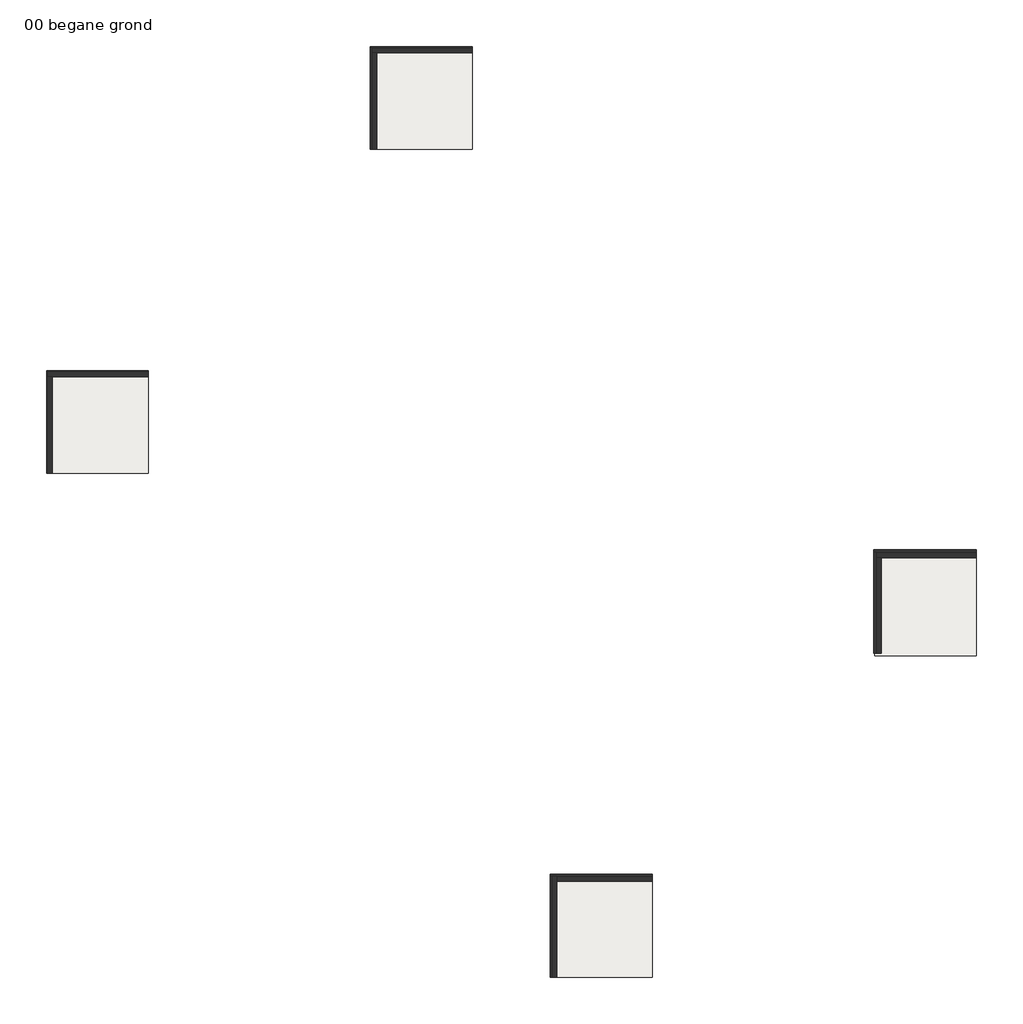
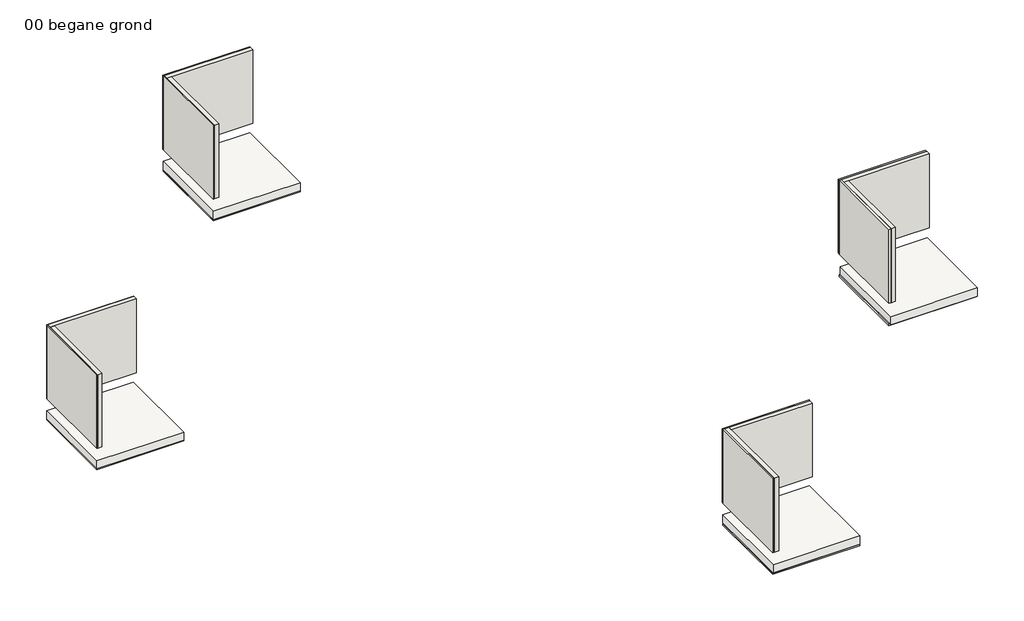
# One storey: 16 walls, 8 slabs.
"""IFC4 building model written with IfcOpenShell, lengths in millimetres."""

from ifc_helpers import new_model, si_unit, frame, origin, origin_with_axes, place, context, project, spatial, polyline, outline, extrude, faceted_brep, element, save

model = new_model("IFC4")

# Units and contexts
model_context = context("Model", 3, world=origin())
ifc_project = project(units=[si_unit("LENGTHUNIT", "METRE", prefix="MILLI")], contexts=[model_context])

# Site, building, storey
site = spatial("IfcSite", under=ifc_project)
building = spatial("IfcBuilding", under=site)
storey = spatial("IfcBuildingStorey", under=building, Name="00 begane grond", Elevation=0.0)

# Slabs
placement = place(None, origin())
element("IfcSlab", 1, ObjectType="NLRS_23_FL_Heraklith - Basis 15x2000x600mm", at=placement, inside=storey, context=model_context, shape_type="SweptSolid", body=[
    extrude(outline(polyline([(0.0, 2000.0), (2000.0, 2000.0), (2000.0, 0.0), (0.0, 0.0), (0.0, 2000.0)])), frame((0.0, 0.0, -515.0), z_axis=(0.0, 0.0, 1.0), x_axis=(1.0, 0.0, 0.0)), (0.0, 0.0, 1.0), 15.0),
])
element("IfcSlab", 2, ObjectType="NLRS_23_FL_Heraklith - Basis 25x2000x600mm", at=placement, inside=storey, context=model_context, shape_type="SweptSolid", body=[
    extrude(outline(polyline([(6358.9610307, 8358.9610307), (8363.9610307, 8358.9610307), (8363.9610307, 6363.9610307), (6358.9610307, 6363.9610307), (6358.9610307, 8358.9610307)])), frame((0.0, 0.0, -525.0), z_axis=(0.0, 0.0, 1.0), x_axis=(1.0, 0.0, 0.0)), (0.0, 0.0, 1.0), 25.0),
])
element("IfcSlab", 3, ObjectType="NLRS_23_FL_Heraklith - Basis 35x2000x600mm", at=placement, inside=storey, context=model_context, shape_type="SweptSolid", body=[
    extrude(outline(polyline([(9889.4949366, -7909.4949366), (11899.4949366, -7909.4949366), (11899.4949366, -9899.4949366), (9889.4949366, -9899.4949366), (9889.4949366, -7909.4949366)])), frame((0.0, 0.0, -535.0), z_axis=(0.0, 0.0, 1.0), x_axis=(1.0, 0.0, 0.0)), (0.0, 0.0, 1.0), 35.0),
])
element("IfcSlab", 4, ObjectType="NLRS_23_FL_Heraklith - Basis 50x2000x600mm", at=placement, inside=storey, context=model_context, shape_type="SweptSolid", body=[
    extrude(outline(polyline([(16245.9559673, -1553.0339059), (18263.4559673, -1553.0339059), (18263.4559673, -3535.5339059), (16245.9559673, -3535.5339059), (16245.9559673, -1553.0339059)])), frame((0.0, 0.0, -550.0), z_axis=(0.0, 0.0, 1.0), x_axis=(1.0, 0.0, 0.0)), (0.0, 0.0, 1.0), 50.0),
])
element("IfcSlab", 5, ObjectType="Generic 200mm", at=placement, inside=storey, context=model_context, shape_type="SweptSolid", body=[
    extrude(outline(polyline([(2000.0, 2015.0), (2000.0, 0.0), (0.0, 0.0), (0.0, 2015.0), (2000.0, 2015.0)])), frame((0.0, 0.0, -500.0), z_axis=(0.0, 0.0, 1.0), x_axis=(1.0, 0.0, 0.0)), (0.0, 0.0, 1.0), 200.0),
])
element("IfcSlab", 6, ObjectType="Generic 200mm", at=placement, inside=storey, context=model_context, shape_type="SweptSolid", body=[
    extrude(outline(polyline([(8363.9610307, 8378.9610307), (8363.9610307, 6363.9610307), (6363.9610307, 6363.9610307), (6363.9610307, 8378.9610307), (8363.9610307, 8378.9610307)])), frame((0.0, 0.0, -500.0), z_axis=(0.0, 0.0, 1.0), x_axis=(1.0, 0.0, 0.0)), (0.0, 0.0, 1.0), 200.0),
])
element("IfcSlab", 7, ObjectType="Generic 200mm", at=placement, inside=storey, context=model_context, shape_type="SweptSolid", body=[
    extrude(outline(polyline([(18263.4559673, -1570.5339059), (18263.4559673, -3585.5339059), (16263.4559673, -3585.5339059), (16263.4559673, -1570.5339059), (18263.4559673, -1570.5339059)])), frame((0.0, 0.0, -500.0), z_axis=(0.0, 0.0, 1.0), x_axis=(1.0, 0.0, 0.0)), (0.0, 0.0, 1.0), 200.0),
])
element("IfcSlab", 8, ObjectType="Generic 200mm", at=placement, inside=storey, context=model_context, shape_type="SweptSolid", body=[
    extrude(outline(polyline([(11899.4949366, -7884.4949366), (11899.4949366, -9899.4949366), (9899.4949366, -9899.4949366), (9899.4949366, -7884.4949366), (11899.4949366, -7884.4949366)])), frame((0.0, 0.0, -500.0), z_axis=(0.0, 0.0, 1.0), x_axis=(1.0, 0.0, 0.0)), (0.0, 0.0, 1.0), 200.0),
])

# Walls
element("IfcWall", 9, ObjectType="NLRS_42_WA_Heraklith - Basis 15x2000x600mm", at=placement, inside=storey, context=model_context, shape_type="SweptSolid", body=[
    extrude(outline(polyline([(15.0, 2000.0), (15.0, 0.0), (0.0, 0.0), (0.0, 2000.0), (15.0, 2000.0)])), origin_with_axes(), (0.0, 0.0, 1.0), 1800.0),
])
element("IfcWall", 10, ObjectType="NLRS_41_WA_Heraklith - Basis 15x2000x600mm", at=placement, inside=storey, context=model_context, shape_type="SweptSolid", body=[
    extrude(outline(polyline([(0.0, 2015.0), (2000.0, 2015.0), (2000.0, 2000.0), (0.0, 2000.0), (0.0, 2015.0)])), origin_with_axes(), (0.0, 0.0, 1.0), 1800.0),
])
element("IfcWall", 11, ObjectType="NLRS_42_WA_Heraklith - Basis 25x2000x600mm", at=placement, inside=storey, context=model_context, shape_type="SweptSolid", body=[
    extrude(outline(polyline([(6383.9610307, 8358.9610307), (6383.9610307, 6363.9610307), (6358.9610307, 6363.9610307), (6358.9610307, 8358.9610307), (6383.9610307, 8358.9610307)])), origin_with_axes(), (0.0, 0.0, 1.0), 1800.0),
])
element("IfcWall", 12, ObjectType="NLRS_41_WA_Heraklith - Basis 25x2000x600mm", at=placement, inside=storey, context=model_context, shape_type="SweptSolid", body=[
    extrude(outline(polyline([(6358.9610307, 8383.9610307), (8363.9610307, 8383.9610307), (8363.9610307, 8358.9610307), (6358.9610307, 8358.9610307), (6358.9610307, 8383.9610307)])), origin_with_axes(), (0.0, 0.0, 1.0), 1800.0),
])
element("IfcWall", 13, ObjectType="NLRS_42_WA_Heraklith - Basis 35x2000x600mm", at=placement, inside=storey, context=model_context, shape_type="SweptSolid", body=[
    extrude(outline(polyline([(9924.4949366, -7909.4949366), (9924.4949366, -9899.4949366), (9889.4949366, -9899.4949366), (9889.4949366, -7909.4949366), (9924.4949366, -7909.4949366)])), origin_with_axes(), (0.0, 0.0, 1.0), 1800.0),
])
element("IfcWall", 14, ObjectType="NLRS_41_WA_Heraklith - Basis 35x2000x600mm", at=placement, inside=storey, context=model_context, shape_type="SweptSolid", body=[
    extrude(outline(polyline([(9889.4949366, -7874.4949366), (11899.4949366, -7874.4949366), (11899.4949366, -7909.4949366), (9889.4949366, -7909.4949366), (9889.4949366, -7874.4949366)])), origin_with_axes(), (0.0, 0.0, 1.0), 1800.0),
])
element("IfcWall", 15, ObjectType="NLRS_42_WA_Heraklith - Basis 50x2000x600mm", at=placement, inside=storey, context=model_context, shape_type="SweptSolid", body=[
    extrude(outline(polyline([(16295.9559673, -1553.0339059), (16295.9559673, -3535.5339059), (16245.9559673, -3535.5339059), (16245.9559673, -1553.0339059), (16295.9559673, -1553.0339059)])), origin_with_axes(), (0.0, 0.0, 1.0), 1800.0),
])
element("IfcWall", 16, ObjectType="NLRS_41_WA_Heraklith - Basis 50x2000x600mm", at=placement, inside=storey, context=model_context, shape_type="SweptSolid", body=[
    extrude(outline(polyline([(16248.4559673, -1503.0339059), (18263.4559673, -1503.0339059), (18263.4559673, -1553.0339059), (16248.4559673, -1553.0339059), (16248.4559673, -1503.0339059)])), origin_with_axes(), (0.0, 0.0, 1.0), 1800.0),
])
element("IfcWall", 17, ObjectType="Generic_100mm", at=placement, inside=storey, context=model_context, shape_type="SweptSolid", body=[
    extrude(outline(polyline([(115.0, 1900.0), (115.0, 0.0), (15.0, 0.0), (15.0, 1900.0), (115.0, 1900.0)])), origin_with_axes(), (0.0, 0.0, 1.0), 1800.0),
])
element("IfcWall", 18, ObjectType="Generic_100mm", at=placement, inside=storey, context=model_context, shape_type="Brep", body=[
    faceted_brep([(2000.0, 2000.0, 0.0), (15.0, 2000.0, 0.0), (15.0, 2000.0, 1800.0), (2000.0, 2000.0, 1800.0), (2000.0, 1900.0, 0.0), (2000.0, 1900.0, 1800.0), (115.0, 1900.0, 1800.0), (15.0, 1900.0, 1800.0), (15.0, 1900.0, 0.0), (115.0, 1900.0, 0.0)], [[[0, 1, 2, 3]], [[4, 5, 6, 7, 8, 9]], [[1, 0, 4, 9, 8]], [[3, 2, 7, 6, 5]], [[0, 3, 5, 4]], [[2, 1, 8, 7]]]),
])
element("IfcWall", 19, ObjectType="Generic_100mm", at=placement, inside=storey, context=model_context, shape_type="SweptSolid", body=[
    extrude(outline(polyline([(6483.9610307, 8258.9610307), (6483.9610307, 6363.9610307), (6383.9610307, 6363.9610307), (6383.9610307, 8258.9610307), (6483.9610307, 8258.9610307)])), origin_with_axes(), (0.0, 0.0, 1.0), 1800.0),
])
element("IfcWall", 20, ObjectType="Generic_100mm", at=placement, inside=storey, context=model_context, shape_type="Brep", body=[
    faceted_brep([(8363.9610307, 8358.9610307, 0.0), (6383.9610307, 8358.9610307, 0.0), (6383.9610307, 8358.9610307, 1800.0), (8363.9610307, 8358.9610307, 1800.0), (8363.9610307, 8258.9610307, 0.0), (8363.9610307, 8258.9610307, 1800.0), (6483.9610307, 8258.9610307, 1800.0), (6383.9610307, 8258.9610307, 1800.0), (6383.9610307, 8258.9610307, 0.0), (6483.9610307, 8258.9610307, 0.0)], [[[0, 1, 2, 3]], [[4, 5, 6, 7, 8, 9]], [[1, 0, 4, 9, 8]], [[3, 2, 7, 6, 5]], [[0, 3, 5, 4]], [[2, 1, 8, 7]]]),
])
element("IfcWall", 21, ObjectType="Generic_100mm", at=placement, inside=storey, context=model_context, shape_type="SweptSolid", body=[
    extrude(outline(polyline([(16395.9559673, -1653.0339059), (16395.9559673, -3535.5339059), (16295.9559673, -3535.5339059), (16295.9559673, -1653.0339059), (16395.9559673, -1653.0339059)])), origin_with_axes(), (0.0, 0.0, 1.0), 1800.0),
])
element("IfcWall", 22, ObjectType="Generic_100mm", at=placement, inside=storey, context=model_context, shape_type="Brep", body=[
    faceted_brep([(18263.4559673, -1553.0339059, 0.0), (16295.9559673, -1553.0339059, 0.0), (16295.9559673, -1553.0339059, 1800.0), (18263.4559673, -1553.0339059, 1800.0), (18263.4559673, -1653.0339059, 0.0), (18263.4559673, -1653.0339059, 1800.0), (16395.9559673, -1653.0339059, 1800.0), (16295.9559673, -1653.0339059, 1800.0), (16295.9559673, -1653.0339059, 0.0), (16395.9559673, -1653.0339059, 0.0)], [[[0, 1, 2, 3]], [[4, 5, 6, 7, 8, 9]], [[1, 0, 4, 9, 8]], [[3, 2, 7, 6, 5]], [[0, 3, 5, 4]], [[2, 1, 8, 7]]]),
])
element("IfcWall", 23, ObjectType="Generic_100mm", at=placement, inside=storey, context=model_context, shape_type="Brep", body=[
    faceted_brep([(10024.4949366, -9899.4949366, 0.0), (10024.4949366, -8009.4949366, 0.0), (10024.4949366, -7909.4949366, 0.0), (10024.4949366, -7909.4949366, 1800.0), (10024.4949366, -8009.4949366, 1800.0), (10024.4949366, -9899.4949366, 1800.0), (9924.4949366, -9899.4949366, 0.0), (9924.4949366, -9899.4949366, 1800.0), (9924.4949366, -7909.4949366, 1800.0), (9924.4949366, -7909.4949366, 0.0)], [[[0, 1, 2, 3, 4, 5]], [[6, 7, 8, 9]], [[2, 1, 0, 6, 9]], [[5, 4, 3, 8, 7]], [[0, 5, 7, 6]], [[3, 2, 9, 8]]]),
])
element("IfcWall", 24, ObjectType="Generic_100mm", at=placement, inside=storey, context=model_context, shape_type="SweptSolid", body=[
    extrude(outline(polyline([(11899.4949366, -8009.4949366), (10024.4949366, -8009.4949366), (10024.4949366, -7909.4949366), (11899.4949366, -7909.4949366), (11899.4949366, -8009.4949366)])), origin_with_axes(), (0.0, 0.0, 1.0), 1800.0),
])

save(model, "model.ifc")
